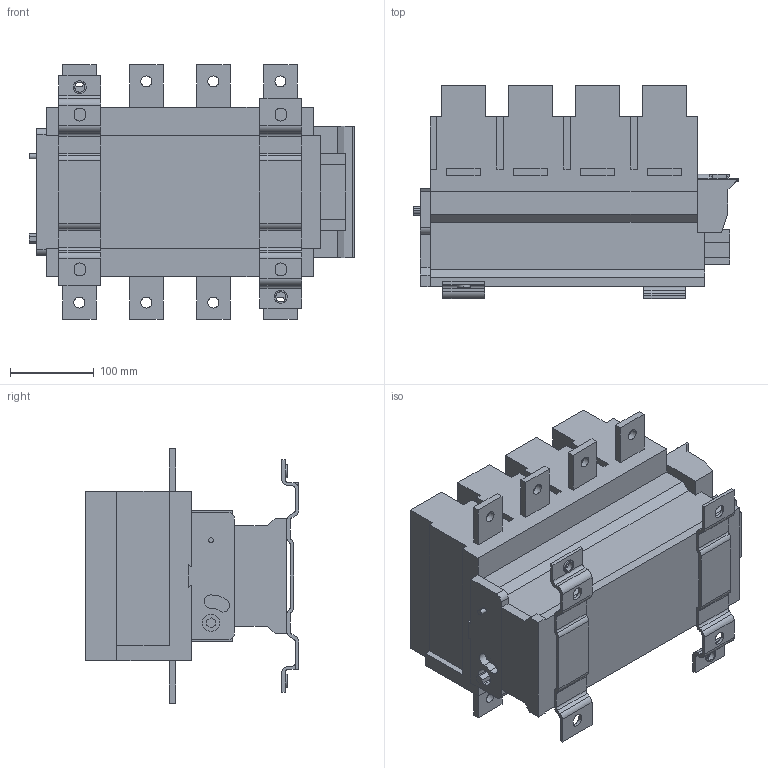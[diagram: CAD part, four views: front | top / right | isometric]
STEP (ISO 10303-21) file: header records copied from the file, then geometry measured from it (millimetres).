
FILE_DESCRIPTION((''),'2;1');
FILE_NAME('LC1F630-4P_CAD_ASM','2018-12-18T',('SESA511996'),('Schneider-Electric'),'PRO/ENGINEER BY PARAMETRIC TECHNOLOGY CORPORATION, 2015440','PRO/ENGINEER BY PARAMETRIC TECHNOLOGY CORPORATION, 2015440','');
FILE_SCHEMA(('CONFIG_CONTROL_DESIGN'));
Length unit declared in the file: millimetre
Products named in the file (4): LC1F6304M7_1_2_AF0; LC1F63074M7_2_1; LC1F6304M7_ASM_2_AF0_ASM; LC1F630-4P_CAD_ASM
Assembly tree (4 placements, depth 3):
  LC1F630-4P_CAD_ASM
    LC1F6304M7_ASM_2_AF0_ASM
      LC1F6304M7_1_2_AF0
      LC1F63074M7_2_1  x2
Bounding box: 389 x 254.5 x 304 mm (x, y, z)
Volume: 12035636.8 mm3; surface area: 625324.8 mm2
Topology: 3 solids, 3 shells, 449 faces, 1240 edges, 818 vertices
Faces by surface type: plane 358, cylinder 91
Entity records: 12465 total; most frequent: CARTESIAN_POINT 2194, ORIENTED_EDGE 2152, DIRECTION 2024, EDGE_CURVE 1076, VECTOR 934, LINE 934, VERTEX_POINT 706, AXIS2_PLACEMENT_3D 545
